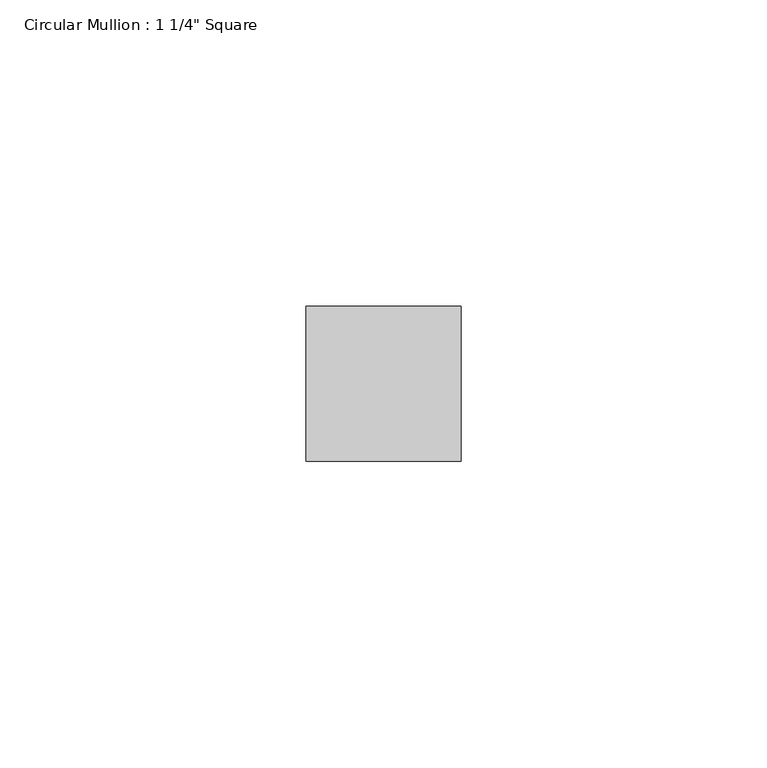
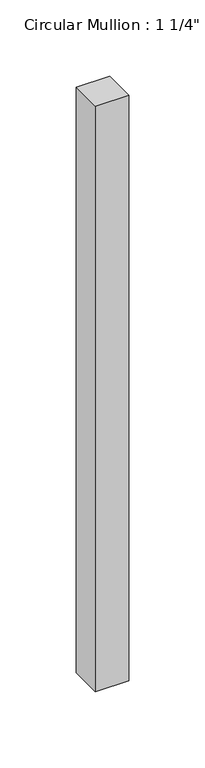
"""IFC4 building model written with IfcOpenShell, lengths in millimetres: member geometry."""

import ifcopenshell
import ifcopenshell.guid

model = None  # the IFC model being written
_history = None  # IfcOwnerHistory: only IFC2X3 demands one
_inside = {}  # id of a spatial element -> (the spatial element, [elements in it])
_under = {}  # id of a project, library or spatial element -> (it, [spatial elements below it])
_declared = {}  # id of a project -> (the project, [libraries it declares])
_typed = {}  # id of a type object -> (the type object, [elements of that type])
_made_of = {}  # id of a material, layer set ... -> (it, [elements and type objects made of it])


def new_model(schema):
    """Start an empty IFC model of exactly this schema.

    Asked for "IFC4X3", IfcOpenShell would pick the latest addendum, in which some entities
    have other attributes; the version numbers below select the first issue.
    IFC2X3 requires an IfcOwnerHistory on every rooted entity: one is made here for all.
    """
    global model, _history
    if schema == "IFC4X3":
        model = ifcopenshell.file(schema_version=(4, 3, 0, 0))
    else:
        model = ifcopenshell.file(schema=schema)
    _inside.clear()
    _under.clear()
    _declared.clear()
    _typed.clear()
    _made_of.clear()
    _history = None
    if model.schema == "IFC2X3":
        org = make("IfcOrganization", Name="unknown")
        user = make(
            "IfcPersonAndOrganization",
            ThePerson=make("IfcPerson", FamilyName="unknown"),
            TheOrganization=org,
        )
        app = make(
            "IfcApplication",
            ApplicationDeveloper=org,
            Version="unknown",
            ApplicationFullName="unknown",
            ApplicationIdentifier="unknown",
        )
        _history = make(
            "IfcOwnerHistory",
            OwningUser=user,
            OwningApplication=app,
            ChangeAction="ADDED",
            CreationDate=0,
        )
    return model


def make(cls, **values):
    """One entity of the class cls with the attributes given. An attribute that is None is left unset."""
    return model.create_entity(
        cls, **{name: value for name, value in values.items() if value is not None}
    )


def rooted(cls, **values):
    """An entity with a GlobalId (a new one), such as an element, a storey or a relation."""
    return make(cls, GlobalId=ifcopenshell.guid.new(), OwnerHistory=_history, **values)


def si_unit(unit_type, name, prefix=None):
    """IfcSIUnit, for example si_unit("LENGTHUNIT", "METRE", prefix="MILLI")."""
    return make("IfcSIUnit", UnitType=unit_type, Prefix=prefix, Name=name)


def assignment(units):
    """IfcUnitAssignment: the units of a project."""
    return None if units is None else make("IfcUnitAssignment", Units=units)


def point(xyz):
    """IfcCartesianPoint."""
    return None if xyz is None else make("IfcCartesianPoint", Coordinates=xyz)


def direction(xyz):
    """IfcDirection."""
    return None if xyz is None else make("IfcDirection", DirectionRatios=xyz)


def frame(location, z_axis=None, x_axis=None):
    """IfcAxis2Placement3D, a coordinate frame: its origin and axes. An axis left out is left unset."""
    return make(
        "IfcAxis2Placement3D",
        Location=point(location),
        Axis=direction(z_axis),
        RefDirection=direction(x_axis),
    )


def origin():
    """The frame at (0, 0, 0) with its axes left unset."""
    return frame((0.0, 0.0, 0.0))


def place(relative_to, where):
    """IfcLocalPlacement: puts the frame where relative to a parent placement (None: the world)."""
    return make(
        "IfcLocalPlacement", PlacementRelTo=relative_to, RelativePlacement=where
    )


def context(
    kind, dimensions, precision=None, world=None, true_north=None, identifier=None
):
    """IfcGeometricRepresentationContext, for example the 3D "Model" context."""
    return make(
        "IfcGeometricRepresentationContext",
        ContextIdentifier=identifier,
        ContextType=kind,
        CoordinateSpaceDimension=dimensions,
        Precision=precision,
        WorldCoordinateSystem=world,
        TrueNorth=true_north,
    )


def project(units=None, contexts=None):
    """IfcProject with its units and contexts."""
    return rooted(
        "IfcProject",
        Name="project",
        RepresentationContexts=contexts,
        UnitsInContext=assignment(units),
    )


def spatial(cls, under=None, at=None, **own):
    """A site, building, storey or space (cls), placed at a placement, below another one or the project."""
    s = rooted(cls, ObjectPlacement=at, **own)
    if under is not None:
        _under.setdefault(under.id(), (under, []))[1].append(s)
    return s


def polyline(points):
    """IfcPolyline through the points."""
    return make("IfcPolyline", Points=[point(p) for p in points])


def outline(outer, holes=None, kind="AREA"):
    """IfcArbitraryClosedProfileDef: a profile drawn as a closed curve; with holes, ...WithVoids."""
    if holes is None:
        return make("IfcArbitraryClosedProfileDef", ProfileType=kind, OuterCurve=outer)
    return make(
        "IfcArbitraryProfileDefWithVoids",
        ProfileType=kind,
        OuterCurve=outer,
        InnerCurves=holes,
    )


def extrude(swept, where, along, depth):
    """IfcExtrudedAreaSolid: the profile swept, set in the frame where, extruded along a direction by depth."""
    return make(
        "IfcExtrudedAreaSolid",
        SweptArea=swept,
        Position=where,
        ExtrudedDirection=direction(along),
        Depth=depth,
    )


def shape(context_of_items, identifier, shape_type, items):
    """IfcShapeRepresentation: the items that make up one representation, for example the "Body"."""
    return make(
        "IfcShapeRepresentation",
        ContextOfItems=context_of_items,
        RepresentationIdentifier=identifier,
        RepresentationType=shape_type,
        Items=items,
    )


def source(mapping_origin, context_of_items, identifier, shape_type, items):
    """IfcRepresentationMap: a shape defined once, which mapped items show again and again."""
    return make(
        "IfcRepresentationMap",
        MappingOrigin=mapping_origin,
        MappedRepresentation=shape(context_of_items, identifier, shape_type, items),
    )


def transform(
    local_origin,
    x_axis=None,
    y_axis=None,
    z_axis=None,
    scale=None,
    scale2=None,
    scale3=None,
    uniform=True,
):
    """IfcCartesianTransformationOperator3D, or its non-uniform kind. x_axis, y_axis, z_axis: its Axis1, 2, 3."""
    if uniform:
        return make(
            "IfcCartesianTransformationOperator3D",
            Axis1=direction(x_axis),
            Axis2=direction(y_axis),
            LocalOrigin=point(local_origin),
            Scale=scale,
            Axis3=direction(z_axis),
        )
    return make(
        "IfcCartesianTransformationOperator3DnonUniform",
        Axis1=direction(x_axis),
        Axis2=direction(y_axis),
        LocalOrigin=point(local_origin),
        Scale=scale,
        Axis3=direction(z_axis),
        Scale2=scale2,
        Scale3=scale3,
    )


def mapped(mapping_source, mapping_target):
    """IfcMappedItem: shows the shape of a source again, moved by a transform."""
    return make(
        "IfcMappedItem", MappingSource=mapping_source, MappingTarget=mapping_target
    )


def made_of(thing, what):
    """Note that an element or type object is made of a material, layer set ...; save() writes the relation."""
    if what is not None:
        _made_of.setdefault(what.id(), (what, []))[1].append(thing)
    return thing


def element(
    cls,
    number,
    at=None,
    inside=None,
    cuts=None,
    type_object=None,
    material=None,
    context=None,
    identifier="Body",
    shape_type=None,
    held_by="IfcProductDefinitionShape",
    body=None,
    shapes=None,
    **own,
):
    """One element of the class cls, such as IfcWall. Its Tag is "e" and its number.

    at: its placement. inside: the storey or other place that contains it. cuts: it is an
    opening in that element (IfcRelVoidsElement). A single representation is given by context,
    identifier, shape_type and body (its items); several are given by shapes. held_by: the class
    of the entity that holds the representations. save() writes the other relations.
    """
    e = rooted(cls, Tag="e%d" % number, ObjectPlacement=at, **own)
    if body is not None:
        shapes = [shape(context, identifier, shape_type, body)]
    if shapes is not None:
        e.Representation = make(held_by, Representations=shapes)
    if inside is not None:
        _inside.setdefault(inside.id(), (inside, []))[1].append(e)
    if cuts is not None:
        rooted(
            "IfcRelVoidsElement", RelatingBuildingElement=cuts, RelatedOpeningElement=e
        )
    if type_object is not None:
        _typed.setdefault(type_object.id(), (type_object, []))[1].append(e)
    return made_of(e, material)


def aggregate(whole, parts):
    """IfcRelAggregates: a whole, such as a stair, and the parts it consists of."""
    return rooted("IfcRelAggregates", RelatingObject=whole, RelatedObjects=parts)


def save(model, path):
    """Write the relations noted so far, then the file.

    IfcRelAggregates (storeys below a building ...), IfcRelContainedInSpatialStructure (elements
    in a storey), IfcRelDefinesByType, IfcRelAssociatesMaterial and IfcRelDeclares: one each for
    every whole, place, type object, material and project.
    """
    for whole, parts in _under.values():
        aggregate(whole, parts)
    for where, things in _inside.values():
        rooted(
            "IfcRelContainedInSpatialStructure",
            RelatedElements=things,
            RelatingStructure=where,
        )
    for kind, things in _typed.values():
        rooted("IfcRelDefinesByType", RelatedObjects=things, RelatingType=kind)
    for what, things in _made_of.values():
        rooted("IfcRelAssociatesMaterial", RelatedObjects=things, RelatingMaterial=what)
    for by, libraries in _declared.values():
        rooted("IfcRelDeclares", RelatingContext=by, RelatedDefinitions=libraries)
    model.write(path)


def member_43d97b6d(model_context):
    return source(origin(), model_context, "Body", "SweptSolid", [
        extrude(outline(polyline([(0.0, 12.7), (0.0, -12.7), (-25.4, -12.7), (-25.4, 12.7), (0.0, 12.7)])), frame((0.0, 0.0, -469.9), z_axis=(0.0, 0.0, 1.0), x_axis=(1.0, 0.0, 0.0)), (0.0, 0.0, 1.0), 469.9),
    ])


if __name__ == "__main__":
    model = new_model("IFC4")
    model_context = context("Model", 3, world=origin())
    ifc_project = project(units=[si_unit("LENGTHUNIT", "METRE", prefix="MILLI")], contexts=[model_context])
    site = spatial("IfcSite", under=ifc_project)
    building = spatial("IfcBuilding", under=site)
    placement = place(None, origin())
    member_shape = member_43d97b6d(model_context)
    element("IfcMember", 1, ObjectType="Circular Mullion : 1 1/4\" Square", at=placement, inside=building, context=model_context, shape_type="MappedRepresentation", body=[
        mapped(member_shape, transform((0.0, 0.0, 0.0), x_axis=(1.0, 0.0, 0.0), y_axis=(0.0, 1.0, 0.0), z_axis=(0.0, 0.0, 1.0))),
    ])
    save(model, "model.ifc")
